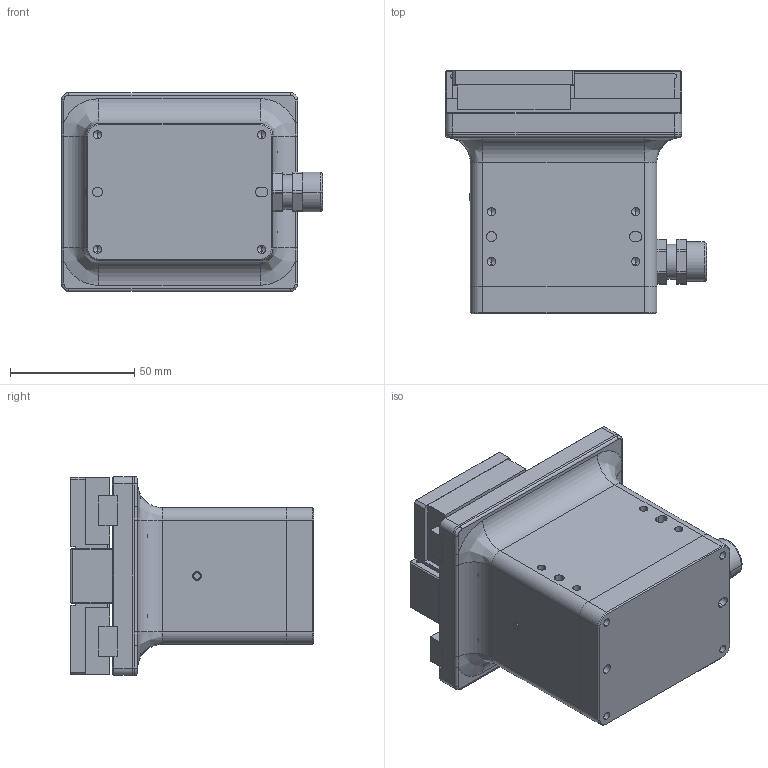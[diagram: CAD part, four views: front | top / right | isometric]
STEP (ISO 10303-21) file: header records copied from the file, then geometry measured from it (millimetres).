
FILE_DESCRIPTION (( 'STEP AP214' ), '1' );
FILE_NAME ('EFG-C80（外发）.STEP', '2024-04-07T02:59:38', ( '' ), ( '' ), 'SwSTEP 2.0', 'SolidWorks 2022', '' );
FILE_SCHEMA (( 'AUTOMOTIVE_DESIGN' ));
Length unit declared in the file: millimetre
Products named in the file (5): 5A0002-D8C2006-V00 喘沭; EFG-C80ㄗ俋楷ㄘ; 3A0001-12L1X94-000 眻盄絳寢(絳寢); 3A0001-12L1X94-000 眻盄絳寢(賑輸); EFG-C80ㄗ俋褲ㄘ
Assembly tree (7 placements, depth 2):
  EFG-C80ㄗ俋楷ㄘ
    3A0001-12L1X94-000 眻盄絳寢(絳寢)  x2
    3A0001-12L1X94-000 眻盄絳寢(賑輸)  x2
    5A0002-D8C2006-V00 喘沭  x2
    EFG-C80ㄗ俋褲ㄘ
Bounding box: 105 x 98 x 80 mm (x, y, z)
Volume: 448666.5 mm3; surface area: 103976.8 mm2
Topology: 12 solids, 26 shells, 535 faces, 1284 edges, 773 vertices
Faces by surface type: plane 229, cylinder 207, cone 83, bspline 14, torus 2
Entity records: 18306 total; most frequent: CARTESIAN_POINT 2631, DIRECTION 2283, ORIENTED_EDGE 2052, EDGE_CURVE 1026, AXIS2_PLACEMENT_3D 829, VERTEX_POINT 653, VECTOR 625, LINE 625
